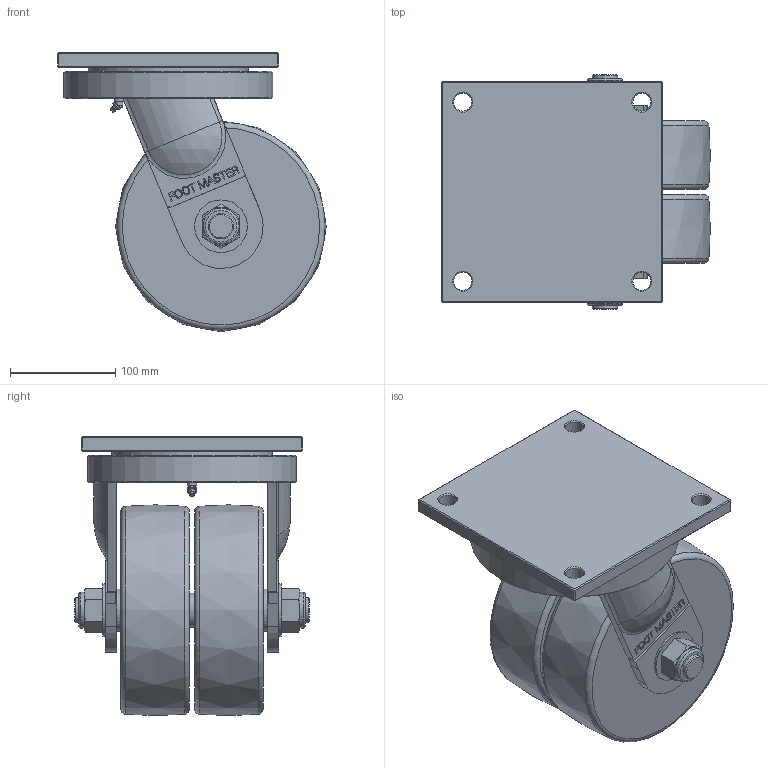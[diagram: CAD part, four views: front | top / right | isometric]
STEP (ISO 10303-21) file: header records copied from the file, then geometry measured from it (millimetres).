
FILE_DESCRIPTION((''),'2;1');
FILE_NAME('E:\DWG\HOMEPAGE\GXTD-200-ASF\GXTD-200-SF.stp','2013-06-10T16:12:00',('Administrator'),(''),'Autodesk Inventor 2012','Autodesk Inventor 2012','');
FILE_SCHEMA(('AUTOMOTIVE_DESIGN { 1 0 10303 214 1 1 1 1 }'));
Length unit declared in the file: millimetre
Products named in the file (1): GXTD-200-SF
Bounding box: 255 x 223 x 265 mm (x, y, z)
Volume: 5838911.9 mm3; surface area: 405195.4 mm2
Topology: 1 solids, 3 shells, 438 faces, 1102 edges, 716 vertices
Faces by surface type: plane 283, bspline 76, cylinder 36, cone 27, torus 12, sphere 4
Full cylindrical faces by diameter (mm): 7.4 x1, 9 x1, 9.238 x1, 17 x4, 24 x2, 32 x1, 34 x2, 40 x2, 50 x2, 152 x1, 198 x1
Entity records: 13422 total; most frequent: CARTESIAN_POINT 3592, ORIENTED_EDGE 2100, DIRECTION 1722, EDGE_CURVE 1050, VECTOR 758, LINE 758, VERTEX_POINT 708, EDGE_LOOP 539
